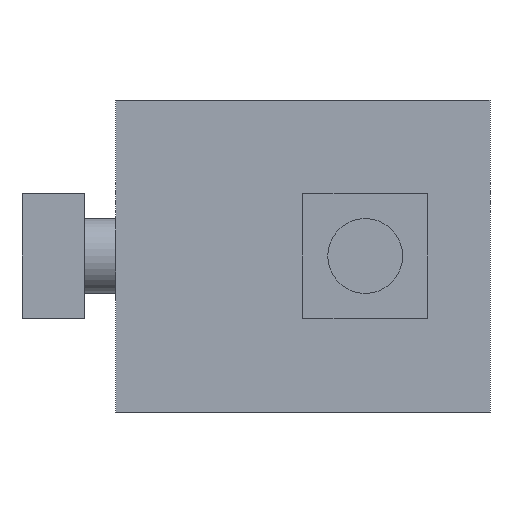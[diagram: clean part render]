
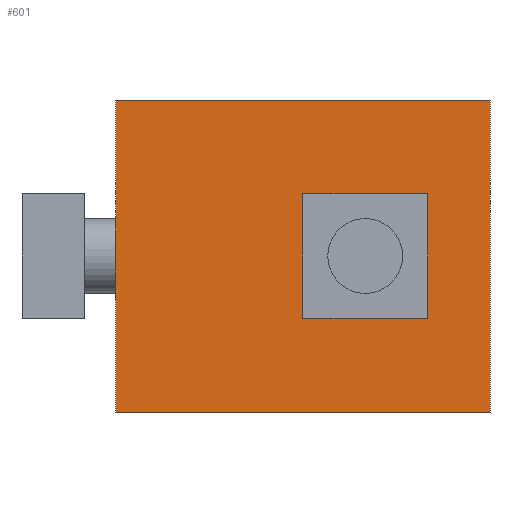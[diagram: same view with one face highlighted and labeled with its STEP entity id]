
A CAD part, front view. The second image highlights one B-rep face of the part: STEP entity #601.
In plain terms, the highlighted planar face has unit normal (0, -1, 0).
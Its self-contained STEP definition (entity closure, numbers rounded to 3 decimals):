
#272=CARTESIAN_POINT('',(23.5,0.0,0.0));
#273=VERTEX_POINT('',#272);
#274=CARTESIAN_POINT('',(20.,0.0,0.0));
#275=DIRECTION('',(0.0,1.0,0.0));
#276=DIRECTION('',(1.0,0.0,0.0));
#277=AXIS2_PLACEMENT_3D('',#274,#275,#276);
#278=CIRCLE('',#277,3.5);
#279=EDGE_CURVE('',#273,#273,#278,.T.);
#289=CARTESIAN_POINT('',(30.,0.0,-12.5));
#290=VERTEX_POINT('',#289);
#299=CARTESIAN_POINT('',(0.0,0.0,-12.5));
#300=VERTEX_POINT('',#299);
#301=CARTESIAN_POINT('',(0.0,0.0,-12.5));
#302=DIRECTION('',(1.0,0.0,0.0));
#303=VECTOR('',#302,30.);
#304=LINE('',#301,#303);
#305=EDGE_CURVE('',#300,#290,#304,.T.);
#371=CARTESIAN_POINT('',(0.0,0.0,12.5));
#372=VERTEX_POINT('',#371);
#388=CARTESIAN_POINT('',(0.0,0.0,12.5));
#389=DIRECTION('',(0.0,0.0,-1.0));
#390=VECTOR('',#389,25.);
#391=LINE('',#388,#390);
#392=EDGE_CURVE('',#372,#300,#391,.T.);
#563=CARTESIAN_POINT('',(30.,0.0,12.5));
#564=VERTEX_POINT('',#563);
#571=CARTESIAN_POINT('',(30.,0.0,-12.5));
#572=DIRECTION('',(0.0,0.0,1.0));
#573=VECTOR('',#572,25.);
#574=LINE('',#571,#573);
#575=EDGE_CURVE('',#290,#564,#574,.T.);
#582=CARTESIAN_POINT('',(30.,0.0,0.0));
#583=DIRECTION('',(0.0,-1.0,0.0));
#584=DIRECTION('',(0.0,0.0,-1.0));
#585=AXIS2_PLACEMENT_3D('',#582,#583,#584);
#586=PLANE('',#585);
#587=CARTESIAN_POINT('',(30.,0.0,12.5));
#588=DIRECTION('',(-1.0,0.0,0.0));
#589=VECTOR('',#588,30.);
#590=LINE('',#587,#589);
#591=EDGE_CURVE('',#564,#372,#590,.T.);
#592=ORIENTED_EDGE('',*,*,#591,.T.);
#593=ORIENTED_EDGE('',*,*,#392,.T.);
#594=ORIENTED_EDGE('',*,*,#305,.T.);
#595=ORIENTED_EDGE('',*,*,#575,.T.);
#596=EDGE_LOOP('',(#592,#593,#594,#595));
#597=FACE_OUTER_BOUND('',#596,.T.);
#598=ORIENTED_EDGE('',*,*,#279,.T.);
#599=EDGE_LOOP('',(#598));
#600=FACE_BOUND('',#599,.T.);
#601=ADVANCED_FACE('',(#597,#600),#586,.T.);
